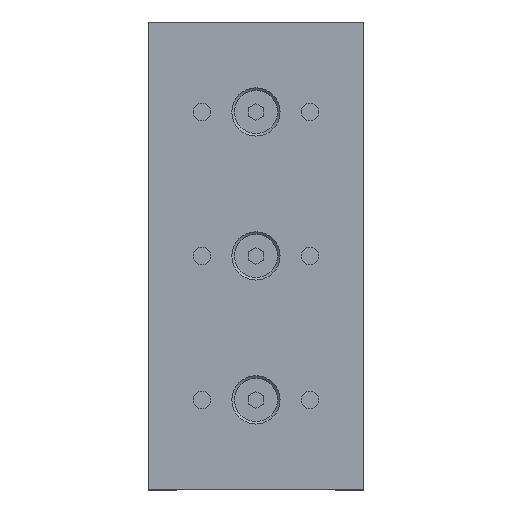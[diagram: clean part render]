
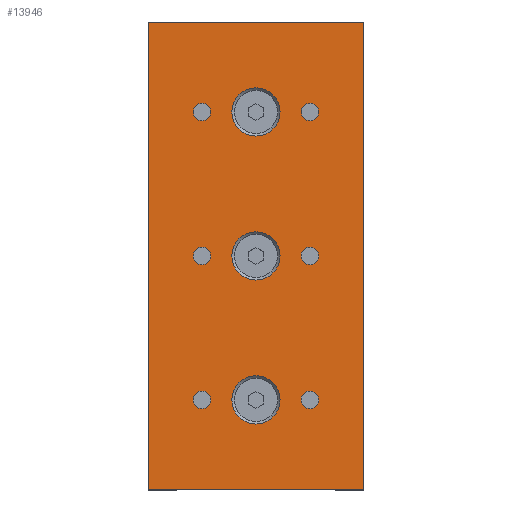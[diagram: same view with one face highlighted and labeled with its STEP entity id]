
A CAD part, top view. The second image highlights one B-rep face of the part: STEP entity #13946.
In plain terms, the highlighted planar face has unit normal (0, 0, 1) as drawn and (0, 1, 0) by its records, which use the part's own axes.
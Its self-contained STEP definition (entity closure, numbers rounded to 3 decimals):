
#300=FACE_BOUND('',#1585,.T.);
#301=FACE_BOUND('',#1586,.T.);
#302=FACE_BOUND('',#1587,.T.);
#303=FACE_BOUND('',#1588,.T.);
#304=FACE_BOUND('',#1589,.T.);
#305=FACE_BOUND('',#1590,.T.);
#306=FACE_BOUND('',#1591,.T.);
#307=FACE_BOUND('',#1592,.T.);
#308=FACE_BOUND('',#1593,.T.);
#816=FACE_OUTER_BOUND('',#1584,.T.);
#1584=EDGE_LOOP('',(#10183,#10184,#10185,#10186));
#1585=EDGE_LOOP('',(#10187));
#1586=EDGE_LOOP('',(#10188));
#1587=EDGE_LOOP('',(#10189));
#1588=EDGE_LOOP('',(#10190));
#1589=EDGE_LOOP('',(#10191));
#1590=EDGE_LOOP('',(#10192));
#1591=EDGE_LOOP('',(#10193));
#1592=EDGE_LOOP('',(#10194));
#1593=EDGE_LOOP('',(#10195));
#2544=LINE('',#20911,#4033);
#2557=LINE('',#20936,#4046);
#2558=LINE('',#20939,#4047);
#2559=LINE('',#20940,#4048);
#4033=VECTOR('',#17280,10.);
#4046=VECTOR('',#17297,10.);
#4047=VECTOR('',#17300,10.);
#4048=VECTOR('',#17301,10.);
#5303=CIRCLE('',#15115,1.23);
#5305=CIRCLE('',#15118,1.23);
#5307=CIRCLE('',#15121,1.23);
#5309=CIRCLE('',#15124,1.23);
#5311=CIRCLE('',#15127,1.23);
#5313=CIRCLE('',#15130,1.23);
#5315=CIRCLE('',#15133,3.35);
#5318=CIRCLE('',#15138,3.35);
#5321=CIRCLE('',#15143,3.35);
#5847=VERTEX_POINT('',#20837);
#5849=VERTEX_POINT('',#20843);
#5851=VERTEX_POINT('',#20849);
#5853=VERTEX_POINT('',#20855);
#5855=VERTEX_POINT('',#20861);
#5857=VERTEX_POINT('',#20867);
#5859=VERTEX_POINT('',#20873);
#5862=VERTEX_POINT('',#20883);
#5865=VERTEX_POINT('',#20893);
#5871=VERTEX_POINT('',#20908);
#5872=VERTEX_POINT('',#20910);
#5882=VERTEX_POINT('',#20934);
#5883=VERTEX_POINT('',#20938);
#7396=EDGE_CURVE('',#5847,#5847,#5303,.T.);
#7399=EDGE_CURVE('',#5849,#5849,#5305,.T.);
#7402=EDGE_CURVE('',#5851,#5851,#5307,.T.);
#7405=EDGE_CURVE('',#5853,#5853,#5309,.T.);
#7408=EDGE_CURVE('',#5855,#5855,#5311,.T.);
#7411=EDGE_CURVE('',#5857,#5857,#5313,.T.);
#7414=EDGE_CURVE('',#5859,#5859,#5315,.T.);
#7419=EDGE_CURVE('',#5862,#5862,#5318,.T.);
#7424=EDGE_CURVE('',#5865,#5865,#5321,.T.);
#7432=EDGE_CURVE('',#5871,#5872,#2544,.T.);
#7445=EDGE_CURVE('',#5871,#5882,#2557,.T.);
#7446=EDGE_CURVE('',#5883,#5882,#2558,.T.);
#7447=EDGE_CURVE('',#5872,#5883,#2559,.T.);
#10183=ORIENTED_EDGE('',*,*,#7445,.T.);
#10184=ORIENTED_EDGE('',*,*,#7446,.F.);
#10185=ORIENTED_EDGE('',*,*,#7447,.F.);
#10186=ORIENTED_EDGE('',*,*,#7432,.F.);
#10187=ORIENTED_EDGE('',*,*,#7396,.T.);
#10188=ORIENTED_EDGE('',*,*,#7399,.T.);
#10189=ORIENTED_EDGE('',*,*,#7402,.T.);
#10190=ORIENTED_EDGE('',*,*,#7405,.T.);
#10191=ORIENTED_EDGE('',*,*,#7408,.T.);
#10192=ORIENTED_EDGE('',*,*,#7411,.T.);
#10193=ORIENTED_EDGE('',*,*,#7414,.T.);
#10194=ORIENTED_EDGE('',*,*,#7419,.T.);
#10195=ORIENTED_EDGE('',*,*,#7424,.T.);
#12592=PLANE('',#15150);
#13946=ADVANCED_FACE('',(#816,#300,#301,#302,#303,#304,#305,#306,#307,#308),
#12592,.T.);
#15115=AXIS2_PLACEMENT_3D('',#20838,#17199,#17200);
#15118=AXIS2_PLACEMENT_3D('',#20844,#17206,#17207);
#15121=AXIS2_PLACEMENT_3D('',#20850,#17213,#17214);
#15124=AXIS2_PLACEMENT_3D('',#20856,#17220,#17221);
#15127=AXIS2_PLACEMENT_3D('',#20862,#17227,#17228);
#15130=AXIS2_PLACEMENT_3D('',#20868,#17234,#17235);
#15133=AXIS2_PLACEMENT_3D('',#20874,#17241,#17242);
#15138=AXIS2_PLACEMENT_3D('',#20884,#17253,#17254);
#15143=AXIS2_PLACEMENT_3D('',#20894,#17265,#17266);
#15150=AXIS2_PLACEMENT_3D('',#20937,#17298,#17299);
#17199=DIRECTION('center_axis',(0.,-1.,0.));
#17200=DIRECTION('ref_axis',(1.,0.,0.));
#17206=DIRECTION('center_axis',(0.,-1.,0.));
#17207=DIRECTION('ref_axis',(1.,0.,0.));
#17213=DIRECTION('center_axis',(0.,-1.,0.));
#17214=DIRECTION('ref_axis',(1.,0.,0.));
#17220=DIRECTION('center_axis',(0.,-1.,0.));
#17221=DIRECTION('ref_axis',(1.,0.,0.));
#17227=DIRECTION('center_axis',(0.,-1.,0.));
#17228=DIRECTION('ref_axis',(1.,0.,0.));
#17234=DIRECTION('center_axis',(0.,-1.,0.));
#17235=DIRECTION('ref_axis',(1.,0.,0.));
#17241=DIRECTION('center_axis',(0.,-1.,0.));
#17242=DIRECTION('ref_axis',(1.,0.,0.));
#17253=DIRECTION('center_axis',(0.,-1.,0.));
#17254=DIRECTION('ref_axis',(1.,0.,0.));
#17265=DIRECTION('center_axis',(0.,-1.,0.));
#17266=DIRECTION('ref_axis',(1.,0.,0.));
#17280=DIRECTION('',(1.,0.,0.));
#17297=DIRECTION('',(0.,0.,1.));
#17298=DIRECTION('center_axis',(0.,1.,0.));
#17299=DIRECTION('ref_axis',(-1.,0.,0.));
#17300=DIRECTION('',(-1.,0.,0.));
#17301=DIRECTION('',(0.,0.,1.));
#20837=CARTESIAN_POINT('',(6.271,11.,0.));
#20838=CARTESIAN_POINT('Origin',(7.5,11.,0.));
#20843=CARTESIAN_POINT('',(21.271,11.,-20.));
#20844=CARTESIAN_POINT('Origin',(22.5,11.,-20.));
#20849=CARTESIAN_POINT('',(6.271,11.,20.));
#20850=CARTESIAN_POINT('Origin',(7.5,11.,20.));
#20855=CARTESIAN_POINT('',(6.271,11.,-20.));
#20856=CARTESIAN_POINT('Origin',(7.5,11.,-20.));
#20861=CARTESIAN_POINT('',(21.271,11.,20.));
#20862=CARTESIAN_POINT('Origin',(22.5,11.,20.));
#20867=CARTESIAN_POINT('',(21.271,11.,0.));
#20868=CARTESIAN_POINT('Origin',(22.5,11.,0.));
#20873=CARTESIAN_POINT('',(11.65,11.,-20.));
#20874=CARTESIAN_POINT('Origin',(15.,11.,-20.));
#20883=CARTESIAN_POINT('',(11.65,11.,20.));
#20884=CARTESIAN_POINT('Origin',(15.,11.,20.));
#20893=CARTESIAN_POINT('',(11.65,11.,0.));
#20894=CARTESIAN_POINT('Origin',(15.,11.,0.));
#20908=CARTESIAN_POINT('',(0.,11.,-32.5));
#20910=CARTESIAN_POINT('',(30.,11.,-32.5));
#20911=CARTESIAN_POINT('',(30.,11.,-32.5));
#20934=CARTESIAN_POINT('',(0.,11.,32.5));
#20936=CARTESIAN_POINT('',(0.,11.,0.));
#20937=CARTESIAN_POINT('Origin',(30.,11.,0.));
#20938=CARTESIAN_POINT('',(30.,11.,32.5));
#20939=CARTESIAN_POINT('',(30.,11.,32.5));
#20940=CARTESIAN_POINT('',(30.,11.,0.));
